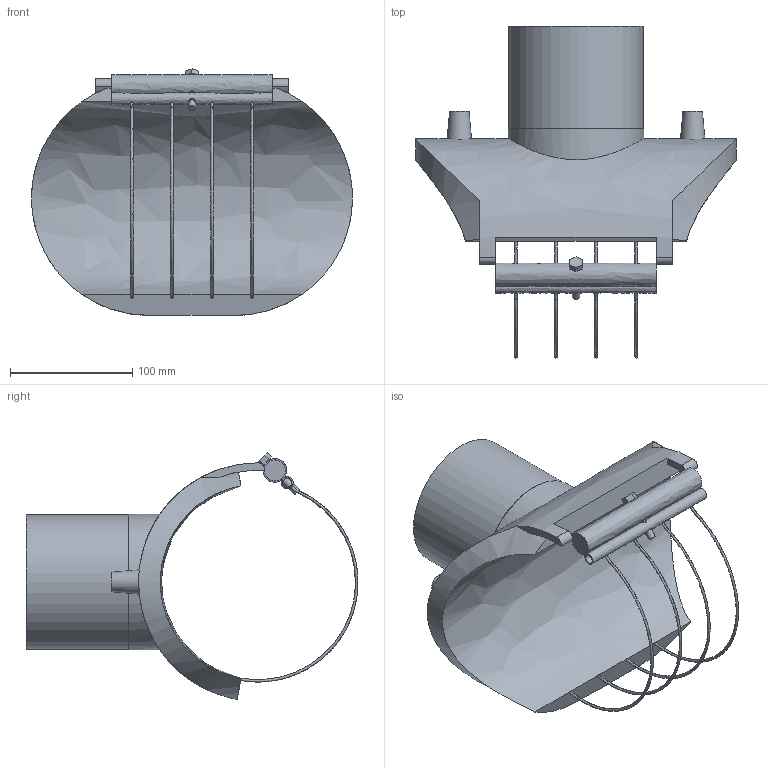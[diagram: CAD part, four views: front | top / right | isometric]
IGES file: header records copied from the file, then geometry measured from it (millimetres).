
Global section: file name: 4958X4160110T; native system: Autodesk Inventor 2021; preprocessor: unknown; author: KIM; date: 20250507.121514; units: millimetre
Bounding box: 263 x 272 x 202.26 mm (x, y, z)
Volume: 1326389.1 mm3; surface area: 225616.8 mm2
Topology: 1 solids, 1 shells, 62 faces, 187 edges, 126 vertices
Faces by surface type: bspline 62
